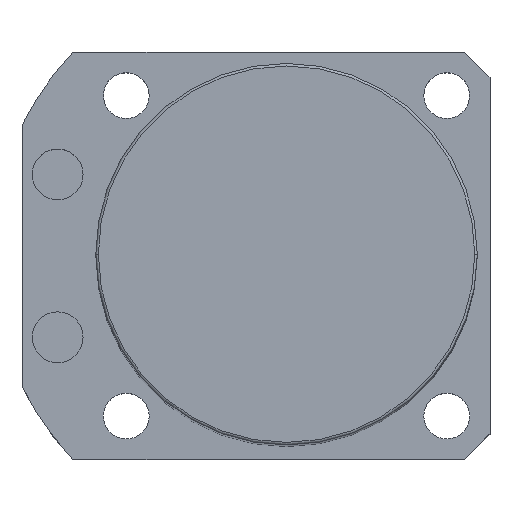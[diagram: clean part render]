
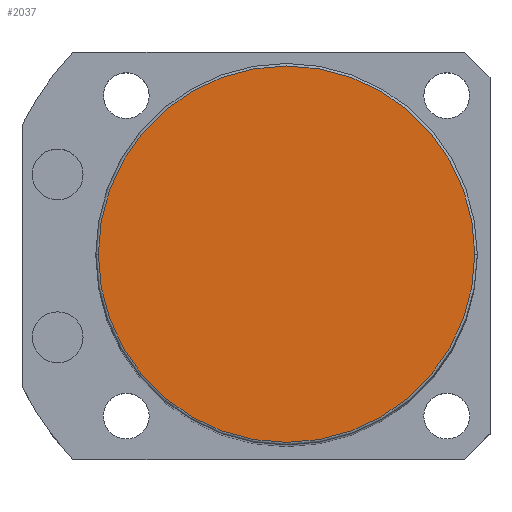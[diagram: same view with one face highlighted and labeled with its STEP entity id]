
A CAD part, top view. The second image highlights one B-rep face of the part: STEP entity #2037.
In plain terms, the highlighted planar face has unit normal (0, 0, 1).
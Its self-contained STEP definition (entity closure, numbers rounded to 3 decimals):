
#29 = CARTESIAN_POINT ( 'NONE',  ( 0., 0., 205.5 ) ) ;
#36 = DIRECTION ( 'NONE',  ( 1., 0., 0. ) ) ;
#86 = CARTESIAN_POINT ( 'NONE',  ( 0., 0., 205.5 ) ) ;
#94 = EDGE_LOOP ( 'NONE', ( #2001, #2360 ) ) ;
#192 = EDGE_CURVE ( 'NONE', #1689, #1402, #2069, .T. ) ;
#241 = DIRECTION ( 'NONE',  ( 0., 0., 1. ) ) ;
#451 = CARTESIAN_POINT ( 'NONE',  ( 0., 0., 205.5 ) ) ;
#463 = FACE_OUTER_BOUND ( 'NONE', #94, .T. ) ;
#819 = AXIS2_PLACEMENT_3D ( 'NONE', #29, #2313, #36 ) ;
#874 = DIRECTION ( 'NONE',  ( 1., 0., 0. ) ) ;
#1040 = CARTESIAN_POINT ( 'NONE',  ( 37., 0., 205.5 ) ) ;
#1184 = CARTESIAN_POINT ( 'NONE',  ( -37., 0., 205.5 ) ) ;
#1276 = CIRCLE ( 'NONE', #2351, 37. ) ;
#1402 = VERTEX_POINT ( 'NONE', #1184 ) ;
#1404 = DIRECTION ( 'NONE',  ( 0., 0., 1. ) ) ;
#1672 = AXIS2_PLACEMENT_3D ( 'NONE', #451, #241, #1788 ) ;
#1689 = VERTEX_POINT ( 'NONE', #1040 ) ;
#1779 = EDGE_CURVE ( 'NONE', #1402, #1689, #1276, .T. ) ;
#1788 = DIRECTION ( 'NONE',  ( 1., 0., 0. ) ) ;
#2001 = ORIENTED_EDGE ( 'NONE', *, *, #192, .T. ) ;
#2037 = ADVANCED_FACE ( 'NONE', ( #463 ), #2131, .T. ) ;
#2069 = CIRCLE ( 'NONE', #819, 37. ) ;
#2131 = PLANE ( 'NONE',  #1672 ) ;
#2313 = DIRECTION ( 'NONE',  ( 0., 0., 1. ) ) ;
#2351 = AXIS2_PLACEMENT_3D ( 'NONE', #86, #1404, #874 ) ;
#2360 = ORIENTED_EDGE ( 'NONE', *, *, #1779, .T. ) ;
